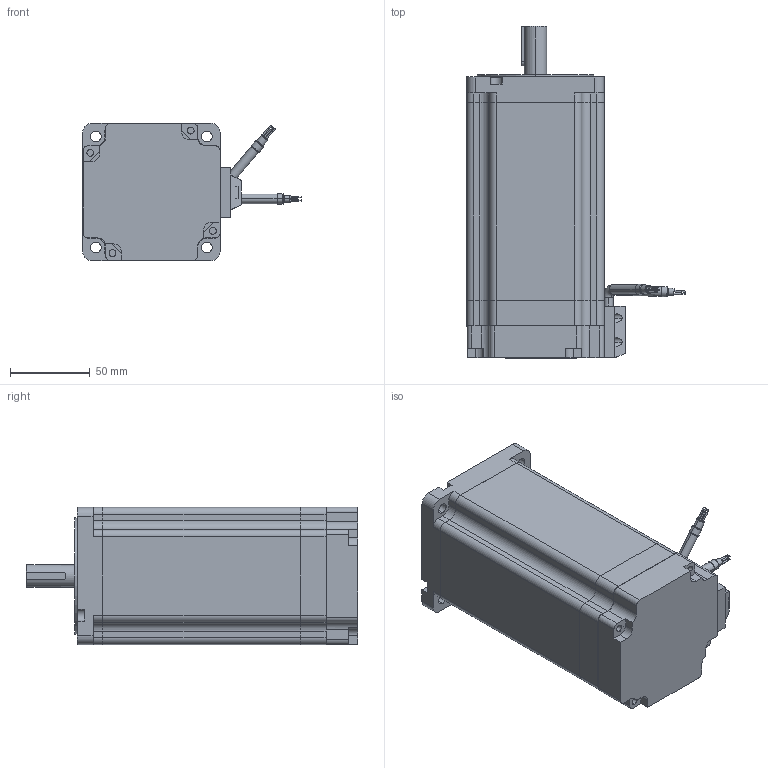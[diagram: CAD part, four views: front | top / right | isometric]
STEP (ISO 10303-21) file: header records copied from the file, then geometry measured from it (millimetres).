
FILE_DESCRIPTION (( 'STEP AP214' ), '1' );
FILE_NAME ('86HS2156-6004E-XXX.STEP', '2024-03-23T01:31:56', ( 'MM' ), ( 'Microsoft' ), 'SwSTEP 2.0', 'SolidWorks 2024', '' );
FILE_SCHEMA (( 'AUTOMOTIVE_DESIGN' ));
Length unit declared in the file: millimetre
Products named in the file (1): 86HS2156-6004E-XXX
Bounding box: 136.87 x 208 x 86 mm (x, y, z)
Volume: 1101944.6 mm3; surface area: 111169 mm2
Topology: 4 solids, 4 shells, 412 faces, 1089 edges, 712 vertices
Faces by surface type: cylinder 196, plane 179, torus 22, cone 8, bspline 7
Entity records: 13290 total; most frequent: CARTESIAN_POINT 2537, DIRECTION 2353, ORIENTED_EDGE 2178, EDGE_CURVE 1089, AXIS2_PLACEMENT_3D 876, VERTEX_POINT 712, VECTOR 601, LINE 601
